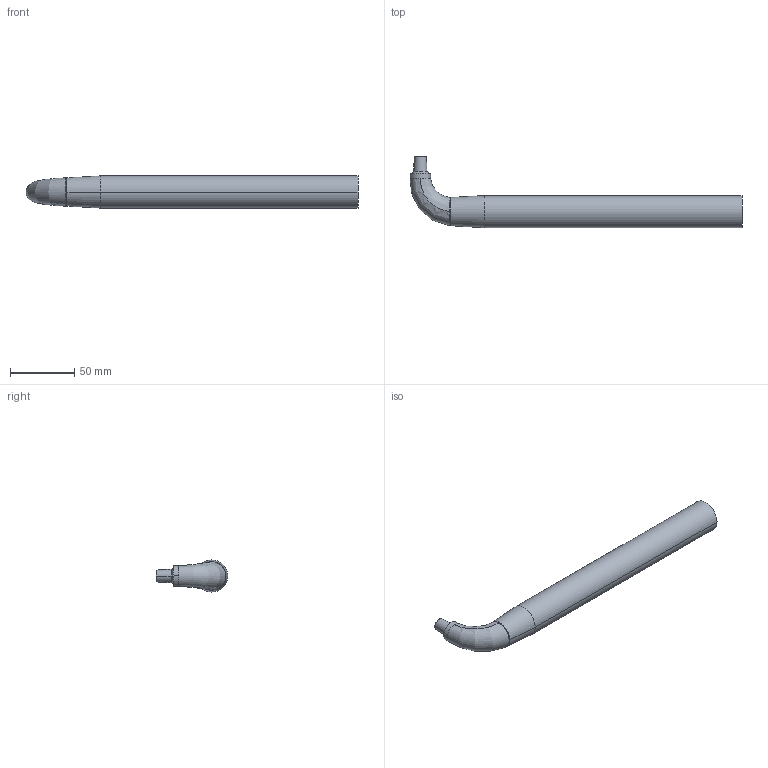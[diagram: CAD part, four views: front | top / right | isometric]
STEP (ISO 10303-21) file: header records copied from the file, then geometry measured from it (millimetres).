
FILE_DESCRIPTION( (''), '2;1');
FILE_NAME ('SY-2080-10_TB-25250-90-C1.stp','2022-04-09T21:07:44',(''),(''),'spGate 18.9.3 (****-****-****-****)','','');
FILE_SCHEMA (('AUTOMOTIVE_DESIGN'));
Length unit declared in the file: millimetre
Products named in the file (2): Assembly; SY-2080-10_TB-25250-90-C1-prt0
Assembly tree (1 placements, depth 2):
  Assembly
    SY-2080-10_TB-25250-90-C1-prt0
Bounding box: 258 x 55.5 x 25 mm (x, y, z)
Volume: 103368.8 mm3; surface area: 29303.2 mm2
Topology: 1 solids, 1 shells, 48 faces, 125 edges, 80 vertices
Faces by surface type: bspline 25, cylinder 12, plane 11
Entity records: 3751 total; most frequent: CARTESIAN_POINT 1767, ORIENTED_EDGE 248, COLOUR_RGB 173, PRESENTATION_STYLE_ASSIGNMENT 173, STYLED_ITEM 173, DIRECTION 170, EDGE_CURVE 124, DRAUGHTING_PRE_DEFINED_CURVE_FONT 124
